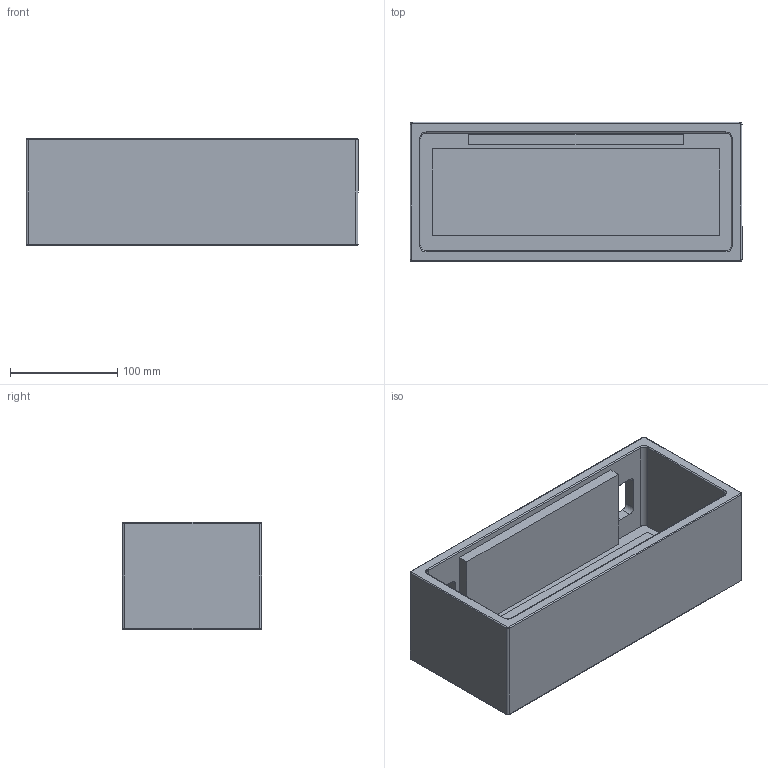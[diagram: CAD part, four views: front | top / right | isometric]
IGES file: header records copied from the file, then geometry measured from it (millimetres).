
Start section: SolidWorks IGES file using analytic representation for surfaces
Global section: file name: X:\PRODUKT\Modele 3D_WWW\_KOLEKCJE WWW\GIPSY\GIPSY-PROSTOK･T-S-2206\GIPSY-PROSTOK･T-S-2206.IGS; native system: SolidWorks 2021; preprocessor: SolidWorks 2021; author: gabriela.tworek; date: 220623.121137; units: millimetre
Bounding box: 310 x 130 x 100 mm (x, y, z)
Surface area: 292690 mm2 (no closed solid volume)
Topology: 0 solids, 0 shells, 87 faces, 416 edges, 416 vertices
Faces by surface type: revolution 52, bspline 35
